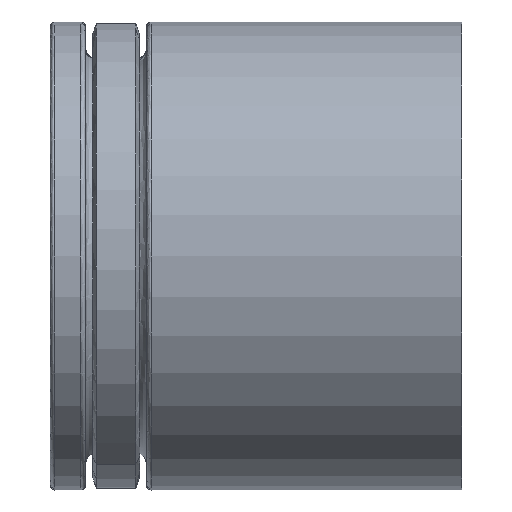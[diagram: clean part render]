
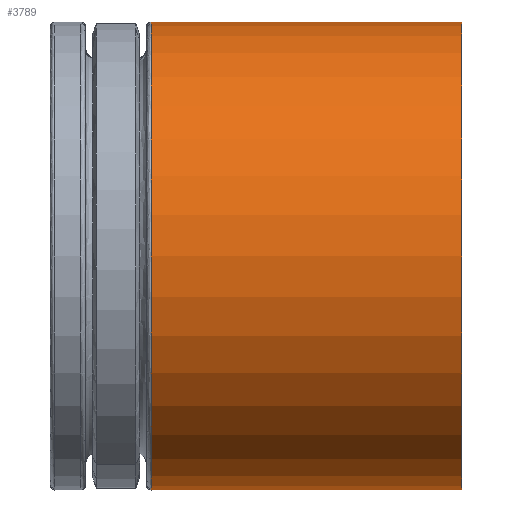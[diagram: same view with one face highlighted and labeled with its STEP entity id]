
A CAD part, front view. The second image highlights one B-rep face of the part: STEP entity #3789.
In plain terms, the highlighted cylindrical face has radius 9.95 mm (diameter 19.9 mm), a partial arc.
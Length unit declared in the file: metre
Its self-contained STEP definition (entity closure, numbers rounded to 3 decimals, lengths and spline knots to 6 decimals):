
#63 = DIRECTION ( 'NONE',  ( 1., 0., 0. ) ) ;
#911 = DIRECTION ( 'NONE',  ( -1., 0., 0. ) ) ;
#916 = ORIENTED_EDGE ( 'NONE', *, *, #2426, .T. ) ;
#1272 = CARTESIAN_POINT ( 'NONE',  ( 0.0175, 0., -0.00995 ) ) ;
#1340 = CARTESIAN_POINT ( 'NONE',  ( 0.0175, 0., 0.00995 ) ) ;
#2426 = EDGE_CURVE ( 'NONE', #9767, #12654, #3854, .T. ) ;
#3672 = DIRECTION ( 'NONE',  ( -1., 0., 0. ) ) ;
#3676 = CARTESIAN_POINT ( 'NONE',  ( 0.0175, 0., 0. ) ) ;
#3789 = ADVANCED_FACE ( 'NONE', ( #13134 ), #4608, .T. ) ;
#3854 = LINE ( 'NONE', #1340, #10251 ) ;
#4092 = VERTEX_POINT ( 'NONE', #11491 ) ;
#4511 = LINE ( 'NONE', #1272, #8604 ) ;
#4608 = CYLINDRICAL_SURFACE ( 'NONE', #5771, 0.00995 ) ;
#4695 = CARTESIAN_POINT ( 'NONE',  ( 0.0043, 0., -0.00995 ) ) ;
#4960 = DIRECTION ( 'NONE',  ( -1., 0., 0. ) ) ;
#5181 = ORIENTED_EDGE ( 'NONE', *, *, #8255, .F. ) ;
#5771 = AXIS2_PLACEMENT_3D ( 'NONE', #5874, #911, #12052 ) ;
#5874 = CARTESIAN_POINT ( 'NONE',  ( 0.0175, 0., 0. ) ) ;
#6287 = EDGE_CURVE ( 'NONE', #14924, #12654, #13398, .T. ) ;
#6404 = ORIENTED_EDGE ( 'NONE', *, *, #12153, .F. ) ;
#6745 = ORIENTED_EDGE ( 'NONE', *, *, #6287, .F. ) ;
#6863 = CARTESIAN_POINT ( 'NONE',  ( 0.0043, 0., 0. ) ) ;
#7082 = DIRECTION ( 'NONE',  ( 0., -1., 0. ) ) ;
#8255 = EDGE_CURVE ( 'NONE', #9767, #4092, #15380, .T. ) ;
#8604 = VECTOR ( 'NONE', #4960, 1. ) ;
#9313 = CARTESIAN_POINT ( 'NONE',  ( 0.0043, 0., 0.00995 ) ) ;
#9767 = VERTEX_POINT ( 'NONE', #10651 ) ;
#10251 = VECTOR ( 'NONE', #3672, 1. ) ;
#10434 = EDGE_LOOP ( 'NONE', ( #6404, #5181, #916, #6745 ) ) ;
#10651 = CARTESIAN_POINT ( 'NONE',  ( 0.0175, 0., 0.00995 ) ) ;
#11491 = CARTESIAN_POINT ( 'NONE',  ( 0.0175, 0., -0.00995 ) ) ;
#12052 = DIRECTION ( 'NONE',  ( 0., 0., 1. ) ) ;
#12153 = EDGE_CURVE ( 'NONE', #4092, #14924, #4511, .T. ) ;
#12464 = DIRECTION ( 'NONE',  ( 0., 0., 1. ) ) ;
#12654 = VERTEX_POINT ( 'NONE', #9313 ) ;
#13134 = FACE_OUTER_BOUND ( 'NONE', #10434, .T. ) ;
#13398 = CIRCLE ( 'NONE', #14217, 0.00995 ) ;
#14217 = AXIS2_PLACEMENT_3D ( 'NONE', #6863, #14488, #7082 ) ;
#14488 = DIRECTION ( 'NONE',  ( -1., 0., 0. ) ) ;
#14924 = VERTEX_POINT ( 'NONE', #4695 ) ;
#15380 = CIRCLE ( 'NONE', #15712, 0.00995 ) ;
#15712 = AXIS2_PLACEMENT_3D ( 'NONE', #3676, #63, #12464 ) ;
